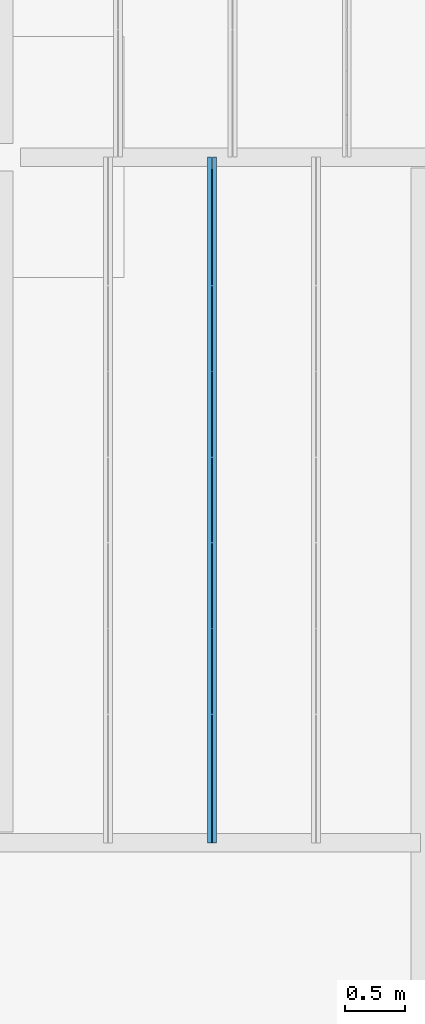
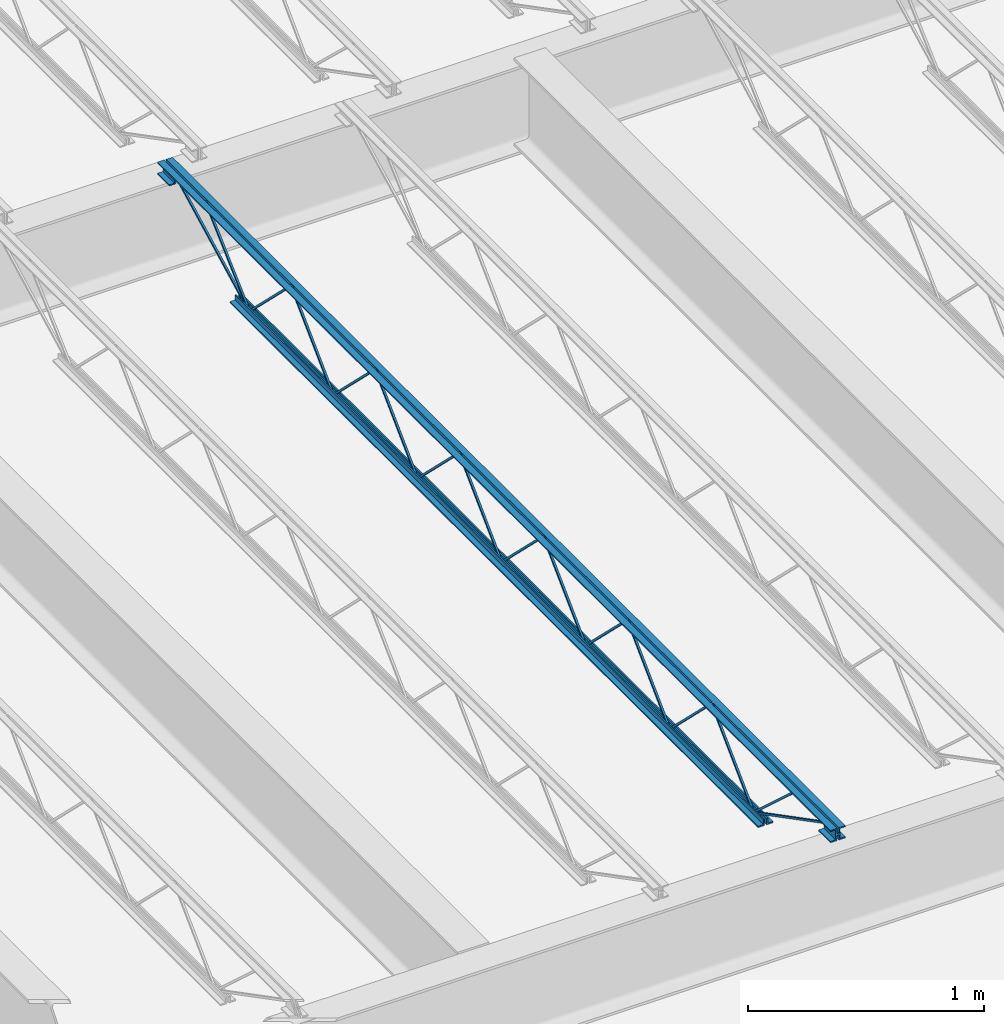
# One storey, part 22 of 75: 1 beam.
"""IFC2X3 building model written with IfcOpenShell, lengths in metres."""

import ifcopenshell
import ifcopenshell.guid

model = None  # the IFC model being written
_history = None  # IfcOwnerHistory: only IFC2X3 demands one
_inside = {}  # id of a spatial element -> (the spatial element, [elements in it])
_under = {}  # id of a project, library or spatial element -> (it, [spatial elements below it])
_declared = {}  # id of a project -> (the project, [libraries it declares])
_typed = {}  # id of a type object -> (the type object, [elements of that type])
_made_of = {}  # id of a material, layer set ... -> (it, [elements and type objects made of it])


def new_model(schema):
    """Start an empty IFC model of exactly this schema.

    Asked for "IFC4X3", IfcOpenShell would pick the latest addendum, in which some entities
    have other attributes; the version numbers below select the first issue.
    IFC2X3 requires an IfcOwnerHistory on every rooted entity: one is made here for all.
    """
    global model, _history
    if schema == "IFC4X3":
        model = ifcopenshell.file(schema_version=(4, 3, 0, 0))
    else:
        model = ifcopenshell.file(schema=schema)
    _inside.clear()
    _under.clear()
    _declared.clear()
    _typed.clear()
    _made_of.clear()
    _history = None
    if model.schema == "IFC2X3":
        org = make("IfcOrganization", Name="unknown")
        user = make(
            "IfcPersonAndOrganization",
            ThePerson=make("IfcPerson", FamilyName="unknown"),
            TheOrganization=org,
        )
        app = make(
            "IfcApplication",
            ApplicationDeveloper=org,
            Version="unknown",
            ApplicationFullName="unknown",
            ApplicationIdentifier="unknown",
        )
        _history = make(
            "IfcOwnerHistory",
            OwningUser=user,
            OwningApplication=app,
            ChangeAction="ADDED",
            CreationDate=0,
        )
    return model


def make(cls, **values):
    """One entity of the class cls with the attributes given. An attribute that is None is left unset."""
    return model.create_entity(
        cls, **{name: value for name, value in values.items() if value is not None}
    )


def entity(cls, *values):
    """Any entity or typed value of the class cls, its attributes in the order of the schema. None: left unset."""
    e = model.create_entity(cls)
    for i, value in enumerate(values):
        if value is not None:
            e[i] = value
    return e


def rooted(cls, **values):
    """An entity with a GlobalId (a new one), such as an element, a storey or a relation."""
    return make(cls, GlobalId=ifcopenshell.guid.new(), OwnerHistory=_history, **values)


def si_unit(unit_type, name, prefix=None):
    """IfcSIUnit, for example si_unit("LENGTHUNIT", "METRE", prefix="MILLI")."""
    return make("IfcSIUnit", UnitType=unit_type, Prefix=prefix, Name=name)


def converted_unit(unit_type, name, factor, base, dimensions=None, offset=None):
    """IfcConversionBasedUnit, such as the inch: factor (a typed value) times the base unit."""
    return make(
        "IfcConversionBasedUnit"
        if offset is None
        else "IfcConversionBasedUnitWithOffset",
        ConversionOffset=offset,
        Dimensions=None
        if dimensions is None
        else entity("IfcDimensionalExponents", *dimensions),
        UnitType=unit_type,
        Name=name,
        ConversionFactor=make(
            "IfcMeasureWithUnit", ValueComponent=factor, UnitComponent=base
        ),
    )


def assignment(units):
    """IfcUnitAssignment: the units of a project."""
    return None if units is None else make("IfcUnitAssignment", Units=units)


def point(xyz):
    """IfcCartesianPoint."""
    return None if xyz is None else make("IfcCartesianPoint", Coordinates=xyz)


def direction(xyz):
    """IfcDirection."""
    return None if xyz is None else make("IfcDirection", DirectionRatios=xyz)


def frame(location, z_axis=None, x_axis=None):
    """IfcAxis2Placement3D, a coordinate frame: its origin and axes. An axis left out is left unset."""
    return make(
        "IfcAxis2Placement3D",
        Location=point(location),
        Axis=direction(z_axis),
        RefDirection=direction(x_axis),
    )


def origin():
    """The frame at (0, 0, 0) with its axes left unset."""
    return frame((0.0, 0.0, 0.0))


def place(relative_to, where):
    """IfcLocalPlacement: puts the frame where relative to a parent placement (None: the world)."""
    return make(
        "IfcLocalPlacement", PlacementRelTo=relative_to, RelativePlacement=where
    )


def context(
    kind, dimensions, precision=None, world=None, true_north=None, identifier=None
):
    """IfcGeometricRepresentationContext, for example the 3D "Model" context."""
    return make(
        "IfcGeometricRepresentationContext",
        ContextIdentifier=identifier,
        ContextType=kind,
        CoordinateSpaceDimension=dimensions,
        Precision=precision,
        WorldCoordinateSystem=world,
        TrueNorth=true_north,
    )


def project(units=None, contexts=None):
    """IfcProject with its units and contexts."""
    return rooted(
        "IfcProject",
        Name="project",
        RepresentationContexts=contexts,
        UnitsInContext=assignment(units),
    )


def spatial(cls, under=None, at=None, **own):
    """A site, building, storey or space (cls), placed at a placement, below another one or the project."""
    s = rooted(cls, ObjectPlacement=at, **own)
    if under is not None:
        _under.setdefault(under.id(), (under, []))[1].append(s)
    return s


def faces_of(points, faces, orient=None, outer=None):
    """IfcFace entities. A face is a list of loops; a loop is a list of indices into points, from 0.

    orient and outer hold one flag for each loop. By default every Orientation is true, the
    first loop of a face is its IfcFaceOuterBound and the others are IfcFaceBound.
    """
    made = []
    for i, loops in enumerate(faces):
        bounds = []
        for j, loop in enumerate(loops):
            is_outer = j == 0 if outer is None else outer[i][j]
            bounds.append(
                make(
                    "IfcFaceOuterBound" if is_outer else "IfcFaceBound",
                    Bound=make("IfcPolyLoop", Polygon=[points[k] for k in loop]),
                    Orientation=True if orient is None else orient[i][j],
                )
            )
        made.append(make("IfcFace", Bounds=bounds))
    return made


def face_set(faces, orient=None, outer=None):
    """The faces of one IfcConnectedFaceSet. surface_model builds it on its shared points."""
    return ("IfcConnectedFaceSet", faces, orient, outer)


def surface_model(cls, points, shells):
    """IfcFaceBasedSurfaceModel or IfcShellBasedSurfaceModel (cls): surfaces that need not close."""
    shared = [point(p) for p in points]
    made = [make(c, CfsFaces=faces_of(shared, fs, o, b)) for c, fs, o, b in shells]
    if cls == "IfcFaceBasedSurfaceModel":
        return make(cls, FbsmFaces=made)
    return make(cls, SbsmBoundary=made)


def shape(context_of_items, identifier, shape_type, items):
    """IfcShapeRepresentation: the items that make up one representation, for example the "Body"."""
    return make(
        "IfcShapeRepresentation",
        ContextOfItems=context_of_items,
        RepresentationIdentifier=identifier,
        RepresentationType=shape_type,
        Items=items,
    )


def made_of(thing, what):
    """Note that an element or type object is made of a material, layer set ...; save() writes the relation."""
    if what is not None:
        _made_of.setdefault(what.id(), (what, []))[1].append(thing)
    return thing


def element(
    cls,
    number,
    at=None,
    inside=None,
    cuts=None,
    type_object=None,
    material=None,
    context=None,
    identifier="Body",
    shape_type=None,
    held_by="IfcProductDefinitionShape",
    body=None,
    shapes=None,
    **own,
):
    """One element of the class cls, such as IfcWall. Its Tag is "e" and its number.

    at: its placement. inside: the storey or other place that contains it. cuts: it is an
    opening in that element (IfcRelVoidsElement). A single representation is given by context,
    identifier, shape_type and body (its items); several are given by shapes. held_by: the class
    of the entity that holds the representations. save() writes the other relations.
    """
    e = rooted(cls, Tag="e%d" % number, ObjectPlacement=at, **own)
    if body is not None:
        shapes = [shape(context, identifier, shape_type, body)]
    if shapes is not None:
        e.Representation = make(held_by, Representations=shapes)
    if inside is not None:
        _inside.setdefault(inside.id(), (inside, []))[1].append(e)
    if cuts is not None:
        rooted(
            "IfcRelVoidsElement", RelatingBuildingElement=cuts, RelatedOpeningElement=e
        )
    if type_object is not None:
        _typed.setdefault(type_object.id(), (type_object, []))[1].append(e)
    return made_of(e, material)


def aggregate(whole, parts):
    """IfcRelAggregates: a whole, such as a stair, and the parts it consists of."""
    return rooted("IfcRelAggregates", RelatingObject=whole, RelatedObjects=parts)


def save(model, path):
    """Write the relations noted so far, then the file.

    IfcRelAggregates (storeys below a building ...), IfcRelContainedInSpatialStructure (elements
    in a storey), IfcRelDefinesByType, IfcRelAssociatesMaterial and IfcRelDeclares: one each for
    every whole, place, type object, material and project.
    """
    for whole, parts in _under.values():
        aggregate(whole, parts)
    for where, things in _inside.values():
        rooted(
            "IfcRelContainedInSpatialStructure",
            RelatedElements=things,
            RelatingStructure=where,
        )
    for kind, things in _typed.values():
        rooted("IfcRelDefinesByType", RelatedObjects=things, RelatingType=kind)
    for what, things in _made_of.values():
        rooted("IfcRelAssociatesMaterial", RelatedObjects=things, RelatingMaterial=what)
    for by, libraries in _declared.values():
        rooted("IfcRelDeclares", RelatingContext=by, RelatedDefinitions=libraries)
    model.write(path)


model = new_model("IFC2X3")

# Units and contexts
model_context = context("Model", 3, precision=1e-09, world=origin())
plan_context = context("Plan", 3, precision=1e-09, world=origin())
ifc_project = project(units=[si_unit("LENGTHUNIT", "METRE"), si_unit("AREAUNIT", "SQUARE_METRE"), si_unit("VOLUMEUNIT", "CUBIC_METRE"), converted_unit("PLANEANGLEUNIT", "DEGREE", entity("IfcRatioMeasure", 0.01745329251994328), si_unit("PLANEANGLEUNIT", "RADIAN"), dimensions=[0, 0, 0, 0, 0, 0, 0]), si_unit("TIMEUNIT", "SECOND")], contexts=[model_context, plan_context])

# Site, building, storey
site_placement = place(None, origin())
site = spatial("IfcSite", under=ifc_project, at=site_placement, Name="Default", CompositionType="ELEMENT")
building_placement = place(site_placement, origin())
building = spatial("IfcBuilding", under=site, at=building_placement, CompositionType="ELEMENT")
storey_placement = place(building_placement, origin())
storey = spatial("IfcBuildingStorey", under=building, at=storey_placement, Name="First Floor", CompositionType="ELEMENT", Elevation=-3.531500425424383e-13)

# Beam
beam_placement = place(storey_placement, frame((-13.18576689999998, 12.91254609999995, 4.112000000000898)))
element("IfcBeam", 1, at=beam_placement, inside=storey, Name="M_K-Series Bar Joist-Rod Web:14K1:14K1", ObjectType="M_K-Series Bar Joist-Rod Web:14K1", context=model_context, shape_type="SurfaceModel", body=[
    surface_model("IfcFaceBasedSurfaceModel", [(0.04149999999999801, 3.560666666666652, 0.01110000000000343), (0.03200000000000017, 3.560666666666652, 0.01110000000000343), (0.03200000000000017, 3.560666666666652, 0.001600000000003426), (0.04149999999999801, 3.560666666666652, 0.001600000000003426), (0.031999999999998, 3.561899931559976, 0.01110000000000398), (0.041499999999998, 3.561899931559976, 0.01110000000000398), (0.03200000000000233, 3.565783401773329, 0.001600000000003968), (0.0320000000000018, 3.915516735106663, 0.3449000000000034), (0.03200000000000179, 3.91798326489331, 0.3449000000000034), (0.03200000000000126, 4.267716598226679, 0.001600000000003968), (0.03200000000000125, 4.27283333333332, 0.001600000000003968), (0.03199999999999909, 4.27283333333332, 0.01110000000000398), (0.03199999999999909, 4.271600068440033, 0.01110000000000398), (0.03199999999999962, 3.921866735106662, 0.3544000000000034), (0.03199999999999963, 3.91163326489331, 0.3544000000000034), (0.04150000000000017, 3.565783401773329, 0.001600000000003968), (0.04149999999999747, 3.915516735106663, 0.3449000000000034), (0.04149999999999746, 3.917983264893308, 0.3449000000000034), (0.04149999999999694, 4.267716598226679, 0.001600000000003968), (0.04149999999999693, 4.27283333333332, 0.001600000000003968), (0.04149999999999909, 4.27283333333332, 0.01110000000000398), (0.04149999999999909, 4.271600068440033, 0.01110000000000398), (0.04149999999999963, 3.921866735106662, 0.3544000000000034), (0.04149999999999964, 3.91163326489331, 0.3544000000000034), (0.04149999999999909, 2.848499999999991, 0.01110000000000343), (0.03200000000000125, 2.848499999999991, 0.01110000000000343), (0.03200000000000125, 2.848499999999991, 0.001600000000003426), (0.04149999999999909, 2.848499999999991, 0.001600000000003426), (0.03199999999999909, 2.849733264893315, 0.01110000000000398), (0.04149999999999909, 2.849733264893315, 0.01110000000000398), (0.03200000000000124, 2.853616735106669, 0.001600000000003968), (0.03200000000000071, 3.20335006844, 0.3449000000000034), (0.03200000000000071, 3.205816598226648, 0.3449000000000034), (0.03200000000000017, 3.555549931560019, 0.001600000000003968), (0.03200000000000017, 3.560666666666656, 0.001600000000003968), (0.03200000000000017, 3.560666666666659, 0.01110000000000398), (0.03200000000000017, 3.559433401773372, 0.01110000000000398), (0.0320000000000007, 3.209700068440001, 0.3544000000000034), (0.03200000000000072, 3.199466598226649, 0.3544000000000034), (0.04150000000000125, 2.853616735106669, 0.001600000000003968), (0.04149999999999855, 3.203350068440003, 0.3449000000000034), (0.04149999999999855, 3.205816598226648, 0.3449000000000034), (0.04149999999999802, 3.555549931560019, 0.001600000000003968), (0.04149999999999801, 3.560666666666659, 0.001600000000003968), (0.04149999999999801, 3.560666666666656, 0.01110000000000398), (0.04149999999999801, 3.559433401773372, 0.01110000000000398), (0.04149999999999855, 3.209700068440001, 0.3544000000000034), (0.04149999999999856, 3.199466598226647, 0.3544000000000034), (0.04150000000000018, 2.136333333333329, 0.01110000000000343), (0.03200000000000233, 2.136333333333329, 0.01110000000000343), (0.03200000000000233, 2.136333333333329, 0.001600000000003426), (0.04150000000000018, 2.136333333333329, 0.001600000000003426), (0.03200000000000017, 2.137566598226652, 0.01110000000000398), (0.04150000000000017, 2.137566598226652, 0.01110000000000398), (0.03200000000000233, 2.141450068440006, 0.001600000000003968), (0.0320000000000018, 2.491183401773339, 0.3449000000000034), (0.03200000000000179, 2.493649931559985, 0.3449000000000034), (0.03200000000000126, 2.843383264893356, 0.001600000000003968), (0.03200000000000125, 2.848499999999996, 0.001600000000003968), (0.03200000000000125, 2.848499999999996, 0.01110000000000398), (0.03200000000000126, 2.847266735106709, 0.01110000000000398), (0.03200000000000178, 2.497533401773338, 0.3544000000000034), (0.0320000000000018, 2.487299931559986, 0.3544000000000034), (0.04150000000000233, 2.141450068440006, 0.001600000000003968), (0.04149999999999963, 2.491183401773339, 0.3449000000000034), (0.04149999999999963, 2.493649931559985, 0.3449000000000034), (0.0414999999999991, 2.843383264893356, 0.001600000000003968), (0.04149999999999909, 2.848499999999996, 0.001600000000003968), (0.04149999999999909, 2.848499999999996, 0.01110000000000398), (0.04149999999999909, 2.847266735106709, 0.01110000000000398), (0.04149999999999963, 2.497533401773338, 0.3544000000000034), (0.04149999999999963, 2.487299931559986, 0.3544000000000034), (0.04149999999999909, 1.424166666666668, 0.01110000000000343), (0.03200000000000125, 1.424166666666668, 0.01110000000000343), (0.03200000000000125, 1.424166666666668, 0.001600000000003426), (0.04149999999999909, 1.424166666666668, 0.001600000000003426), (0.03199999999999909, 1.425399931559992, 0.01110000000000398), (0.04149999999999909, 1.425399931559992, 0.01110000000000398), (0.03200000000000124, 1.429283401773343, 0.001600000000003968), (0.03200000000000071, 1.779016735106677, 0.3449000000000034), (0.03200000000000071, 1.781483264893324, 0.3449000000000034), (0.03200000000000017, 2.131216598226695, 0.001600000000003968), (0.03200000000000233, 2.136333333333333, 0.001600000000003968), (0.03200000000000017, 2.136333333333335, 0.01110000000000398), (0.03200000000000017, 2.135100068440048, 0.01110000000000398), (0.0320000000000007, 1.785366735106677, 0.3544000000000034), (0.03200000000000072, 1.775133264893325, 0.3544000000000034), (0.04150000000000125, 1.429283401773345, 0.001600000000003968), (0.04149999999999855, 1.779016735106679, 0.3449000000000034), (0.04149999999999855, 1.781483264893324, 0.3449000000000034), (0.04149999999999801, 2.131216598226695, 0.001600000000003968), (0.04149999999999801, 2.136333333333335, 0.001600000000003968), (0.04150000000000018, 2.136333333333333, 0.01110000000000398), (0.04149999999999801, 2.135100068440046, 0.01110000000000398), (0.04149999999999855, 1.785366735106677, 0.3544000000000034), (0.04149999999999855, 1.775133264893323, 0.3544000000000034), (0.04149999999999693, 4.272833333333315, 0.01109999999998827), (0.03199999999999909, 4.272833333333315, 0.01109999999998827), (0.03199999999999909, 4.272833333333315, 0.001599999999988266), (0.04149999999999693, 4.272833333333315, 0.001599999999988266), (0.03199999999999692, 4.274066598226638, 0.01109999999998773), (0.04149999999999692, 4.274066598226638, 0.01109999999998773), (0.03199999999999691, 4.277950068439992, 0.001599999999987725), (0.03199999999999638, 4.627683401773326, 0.3448999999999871), (0.03199999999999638, 4.630149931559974, 0.3448999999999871), (0.03199999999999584, 4.979883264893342, 0.001599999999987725), (0.031999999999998, 4.984999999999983, 0.001599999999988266), (0.03199999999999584, 4.984999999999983, 0.01109999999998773), (0.03199999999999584, 4.983766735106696, 0.01109999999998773), (0.03199999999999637, 4.634033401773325, 0.3543999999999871), (0.03199999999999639, 4.623799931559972, 0.3543999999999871), (0.04149999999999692, 4.277950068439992, 0.001599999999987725), (0.04149999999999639, 4.627683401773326, 0.3448999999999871), (0.04149999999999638, 4.630149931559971, 0.3448999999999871), (0.04149999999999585, 4.979883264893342, 0.001599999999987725), (0.04149999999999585, 4.984999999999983, 0.001599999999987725), (0.04149999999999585, 4.984999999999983, 0.01109999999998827), (0.04149999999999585, 4.983766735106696, 0.01109999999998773), (0.04149999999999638, 4.634033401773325, 0.3543999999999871), (0.04149999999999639, 4.623799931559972, 0.3543999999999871), (0.04150000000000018, 0.712000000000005, 0.01110000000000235), (0.03200000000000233, 0.712000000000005, 0.01110000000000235), (0.03200000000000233, 0.712000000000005, 0.001600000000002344), (0.04150000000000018, 0.712000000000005, 0.001600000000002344), (0.03200000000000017, 0.7132332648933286, 0.01110000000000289), (0.04150000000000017, 0.7132332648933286, 0.01110000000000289), (0.03200000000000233, 0.717116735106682, 0.001600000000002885), (0.0320000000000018, 1.066850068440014, 0.3449000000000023), (0.03200000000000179, 1.069316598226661, 0.3449000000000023), (0.03200000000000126, 1.419049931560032, 0.001600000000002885), (0.03200000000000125, 1.42416666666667, 0.001600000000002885), (0.03200000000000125, 1.424166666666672, 0.01110000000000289), (0.03200000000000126, 1.422933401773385, 0.01110000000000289), (0.03200000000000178, 1.073200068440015, 0.3544000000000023), (0.0320000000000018, 1.062966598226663, 0.3544000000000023), (0.04150000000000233, 0.717116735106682, 0.001600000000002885), (0.04149999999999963, 1.066850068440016, 0.3449000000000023), (0.04149999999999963, 1.069316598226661, 0.3449000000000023), (0.04149999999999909, 1.419049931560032, 0.001600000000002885), (0.04149999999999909, 1.424166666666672, 0.001600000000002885), (0.04149999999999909, 1.42416666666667, 0.01110000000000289), (0.04149999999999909, 1.422933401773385, 0.01110000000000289), (0.04149999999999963, 1.073200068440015, 0.3544000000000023), (0.04149999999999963, 1.062966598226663, 0.3544000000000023), (0.03199999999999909, 5.697, 0.3559999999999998), (0.0, 5.697, 0.3559999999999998), (0.0, 5.697, 0.349499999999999), (0.0254999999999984, 5.697, 0.349499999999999), (0.0254999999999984, 5.697, 0.3239999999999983), (0.03199999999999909, 5.697, 0.3239999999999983), (0.04149999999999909, 5.697, 0.3559999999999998), (0.04149999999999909, 5.697, 0.3239999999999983), (0.04799999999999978, 5.697, 0.3239999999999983), (0.04799999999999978, 5.697, 0.349499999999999), (0.07349999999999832, 5.697, 0.349499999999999), (0.07349999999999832, 5.697, 0.3559999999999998), (0.03199999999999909, 0.0, 0.3559999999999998), (0.0, 0.0, 0.3559999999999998), (0.0, 0.0, 0.349499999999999), (0.0254999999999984, 0.0, 0.349499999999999), (0.0254999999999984, 0.0, 0.3239999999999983), (0.03199999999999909, 0.0, 0.3239999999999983), (0.04149999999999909, 0.0, 0.3559999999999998), (0.04149999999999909, 0.0, 0.3239999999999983), (0.04799999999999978, 0.0, 0.3239999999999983), (0.04799999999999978, 0.0, 0.349499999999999), (0.07349999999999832, 0.0, 0.349499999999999), (0.07349999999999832, 0.0, 0.3559999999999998), (0.04149999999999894, 0.09999999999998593, 0.2924999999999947), (0.07349999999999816, 0.09999999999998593, 0.2924999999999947), (0.07349999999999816, 0.09999999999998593, 0.2989999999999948), (0.04799999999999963, 0.09999999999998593, 0.2989999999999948), (0.04799999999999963, 0.09999999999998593, 0.3239999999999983), (0.04149999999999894, 0.09999999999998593, 0.3239999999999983), (0.0, 0.09999999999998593, 0.2924999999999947), (0.03199999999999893, 0.09999999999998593, 0.2924999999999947), (0.03199999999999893, 0.09999999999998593, 0.3239999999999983), (0.02549999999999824, 0.09999999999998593, 0.3239999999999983), (0.02549999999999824, 0.09999999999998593, 0.2989999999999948), (0.0, 0.09999999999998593, 0.2989999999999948), (0.04149999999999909, 0.0, 0.2924999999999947), (0.07349999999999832, 0.0, 0.2924999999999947), (0.07349999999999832, 0.0, 0.2989999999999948), (0.04799999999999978, 0.0, 0.2989999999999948), (0.0, 0.0, 0.2924999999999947), (0.03199999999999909, 0.0, 0.2924999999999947), (0.0254999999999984, 0.0, 0.2989999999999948), (0.0, 0.0, 0.2989999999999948), (0.03199999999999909, 5.697, 0.2924999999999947), (0.02550000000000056, 5.697, 0.3239999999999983), (0.02550000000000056, 5.697, 0.2989999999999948), (0.0, 5.697, 0.2989999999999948), (0.0, 5.697, 0.2924999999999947), (0.04149999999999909, 5.697, 0.2924999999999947), (0.07350000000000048, 5.697, 0.2924999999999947), (0.07350000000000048, 5.697, 0.2989999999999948), (0.04799999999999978, 5.697, 0.2989999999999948), (0.03199999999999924, 5.597000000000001, 0.2924999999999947), (0.03199999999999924, 5.597000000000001, 0.3239999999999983), (0.02550000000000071, 5.597000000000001, 0.3239999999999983), (0.02550000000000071, 5.597000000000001, 0.2989999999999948), (0.0, 5.597000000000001, 0.2989999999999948), (0.0, 5.597000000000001, 0.2924999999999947), (0.04149999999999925, 5.597000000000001, 0.2924999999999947), (0.07350000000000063, 5.597000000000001, 0.2924999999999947), (0.07350000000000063, 5.597000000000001, 0.2989999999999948), (0.04799999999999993, 5.597000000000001, 0.2989999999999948), (0.04799999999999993, 5.597000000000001, 0.3239999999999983), (0.04149999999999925, 5.597000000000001, 0.3239999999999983), (0.03200000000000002, 5.085000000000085, 0.0), (0.03200000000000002, 5.085000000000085, 0.03199999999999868), (0.02549999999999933, 5.085000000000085, 0.03199999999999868), (0.02549999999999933, 5.085000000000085, 0.006499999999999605), (0.0, 5.085000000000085, 0.006499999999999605), (0.0, 5.085000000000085, 0.0), (0.04150000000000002, 5.085000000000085, 0.0), (0.07349999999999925, 5.085000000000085, 0.0), (0.07349999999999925, 5.085000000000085, 0.006499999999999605), (0.04800000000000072, 5.085000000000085, 0.006499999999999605), (0.04800000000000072, 5.085000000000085, 0.03199999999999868), (0.04150000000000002, 5.085000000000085, 0.03199999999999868), (0.03199999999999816, 0.6120000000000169, 0.0), (0.03199999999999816, 0.6120000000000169, 0.03199999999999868), (0.02549999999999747, 0.6120000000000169, 0.03199999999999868), (0.02549999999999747, 0.6120000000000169, 0.006499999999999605), (0.0, 0.6120000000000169, 0.006499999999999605), (0.0, 0.6120000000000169, 0.0), (0.04149999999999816, 0.6120000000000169, 0.0), (0.07349999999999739, 0.6120000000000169, 0.0), (0.07349999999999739, 0.6120000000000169, 0.006499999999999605), (0.04799999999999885, 0.6120000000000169, 0.006499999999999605), (0.04799999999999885, 0.6120000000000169, 0.03199999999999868), (0.04149999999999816, 0.6120000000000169, 0.03199999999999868), (0.04150000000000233, 0.7141882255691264, 0.01056594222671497), (0.03200000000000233, 0.7141882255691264, 0.01056594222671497), (0.03200000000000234, 0.7098117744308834, 0.002134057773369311), (0.04150000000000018, 0.7098117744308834, 0.002134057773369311), (0.04150000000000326, 0.1011592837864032, 0.3287499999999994), (0.04150000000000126, 0.0, 0.3287499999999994), (0.04150000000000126, 0.0, 0.3192499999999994), (0.04150000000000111, 0.09884071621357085, 0.3192499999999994), (0.0320000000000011, 0.09884071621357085, 0.3192499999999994), (0.0320000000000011, 0.1011592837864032, 0.3287499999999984), (0.03200000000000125, 0.0, 0.3287499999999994), (0.03200000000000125, 0.0, 0.3192499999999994), (0.04149999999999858, 0.3359595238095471, 0.341700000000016), (0.03200000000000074, 0.3359595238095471, 0.341700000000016), (0.03200000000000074, 0.3359595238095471, 0.332200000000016), (0.04149999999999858, 0.3359595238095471, 0.332200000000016), (0.03199999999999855, 0.3504971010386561, 0.341700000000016), (0.04149999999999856, 0.3504971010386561, 0.341700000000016), (0.03200000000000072, 0.3468219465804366, 0.3322000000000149), (0.03200000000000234, 0.708803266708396, 0.002836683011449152), (0.03200000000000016, 0.715196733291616, 0.009863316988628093), (0.04150000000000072, 0.3468219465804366, 0.332200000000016), (0.04149999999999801, 0.708803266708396, 0.002836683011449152), (0.04150000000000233, 0.715196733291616, 0.009863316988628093), (0.04149999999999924, 5.599188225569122, 0.3197840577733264), (0.04149999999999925, 5.594811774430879, 0.3282159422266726), (0.0320000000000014, 5.594811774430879, 0.3282159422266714), (0.0320000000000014, 5.599188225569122, 0.3197840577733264), (0.04150000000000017, 4.98718822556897, 0.002134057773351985), (0.04149999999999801, 4.982811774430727, 0.01056594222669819), (0.031999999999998, 4.982811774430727, 0.01056594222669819), (0.03200000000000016, 4.98718822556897, 0.002134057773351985), (0.0414999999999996, 5.358825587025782, 0.3461653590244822), (0.04149999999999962, 5.352369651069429, 0.3531346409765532), (0.03199999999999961, 5.352369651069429, 0.3531346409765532), (0.03200000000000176, 5.358825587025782, 0.3461653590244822), (0.041499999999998, 4.988227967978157, 0.002865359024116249), (0.04149999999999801, 4.981772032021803, 0.009834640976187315), (0.031999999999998, 4.981772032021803, 0.009834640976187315), (0.03200000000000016, 4.988227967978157, 0.002865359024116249)], [face_set([[[0, 1, 2, 3]], [[1, 4, 5, 0]], [[2, 6, 7, 8, 9, 10, 11, 12, 13, 14, 4, 1]], [[3, 2, 6, 15]], [[0, 3, 15, 16, 17, 18, 19, 20, 21, 22, 23, 5]], [[4, 5, 23, 14]], [[15, 16, 7, 6]], [[14, 13, 22, 23]], [[16, 7, 8, 17]], [[13, 12, 21, 22]], [[17, 8, 9, 18]], [[20, 11, 10, 19]], [[12, 11, 20, 21]], [[18, 9, 10, 19]]]), face_set([[[24, 25, 26, 27]], [[25, 28, 29, 24]], [[26, 30, 31, 32, 33, 34, 35, 36, 37, 38, 28, 25]], [[27, 26, 30, 39]], [[24, 27, 39, 40, 41, 42, 43, 44, 45, 46, 47, 29]], [[28, 29, 47, 38]], [[39, 40, 31, 30]], [[38, 37, 46, 47]], [[40, 31, 32, 41]], [[37, 36, 45, 46]], [[41, 32, 33, 42]], [[44, 35, 34, 43]], [[36, 35, 44, 45]], [[42, 33, 34, 43]]]), face_set([[[48, 49, 50, 51]], [[49, 52, 53, 48]], [[50, 54, 55, 56, 57, 58, 59, 60, 61, 62, 52, 49]], [[51, 50, 54, 63]], [[48, 51, 63, 64, 65, 66, 67, 68, 69, 70, 71, 53]], [[52, 53, 71, 62]], [[63, 64, 55, 54]], [[62, 61, 70, 71]], [[64, 55, 56, 65]], [[61, 60, 69, 70]], [[65, 56, 57, 66]], [[68, 59, 58, 67]], [[60, 59, 68, 69]], [[66, 57, 58, 67]]]), face_set([[[72, 73, 74, 75]], [[73, 76, 77, 72]], [[74, 78, 79, 80, 81, 82, 83, 84, 85, 86, 76, 73]], [[75, 74, 78, 87]], [[72, 75, 87, 88, 89, 90, 91, 92, 93, 94, 95, 77]], [[76, 77, 95, 86]], [[87, 88, 79, 78]], [[86, 85, 94, 95]], [[88, 79, 80, 89]], [[85, 84, 93, 94]], [[89, 80, 81, 90]], [[92, 83, 82, 91]], [[84, 83, 92, 93]], [[90, 81, 82, 91]]]), face_set([[[96, 97, 98, 99]], [[97, 100, 101, 96]], [[98, 102, 103, 104, 105, 106, 107, 108, 109, 110, 100, 97]], [[99, 98, 102, 111]], [[96, 99, 111, 112, 113, 114, 115, 116, 117, 118, 119, 101]], [[100, 101, 119, 110]], [[111, 112, 103, 102]], [[110, 109, 118, 119]], [[112, 103, 104, 113]], [[109, 108, 117, 118]], [[113, 104, 105, 114]], [[116, 107, 106, 115]], [[108, 107, 116, 117]], [[114, 105, 106, 115]]]), face_set([[[120, 121, 122, 123]], [[121, 124, 125, 120]], [[122, 126, 127, 128, 129, 130, 131, 132, 133, 134, 124, 121]], [[123, 122, 126, 135]], [[120, 123, 135, 136, 137, 138, 139, 140, 141, 142, 143, 125]], [[124, 125, 143, 134]], [[135, 136, 127, 126]], [[134, 133, 142, 143]], [[136, 127, 128, 137]], [[133, 132, 141, 142]], [[137, 128, 129, 138]], [[140, 131, 130, 139]], [[132, 131, 140, 141]], [[138, 129, 130, 139]]]), face_set([[[144, 145, 146, 147, 148, 149]], [[150, 151, 152, 153, 154, 155]], [[156, 157, 158, 159, 160, 161]], [[162, 163, 164, 165, 166, 167]], [[149, 144, 156, 161]], [[148, 149, 161, 160]], [[147, 159, 160, 148]], [[146, 147, 159, 158]], [[145, 157, 158, 146]], [[144, 156, 157, 145]], [[155, 167, 162, 150]], [[154, 155, 167, 166]], [[153, 154, 166, 165]], [[152, 153, 165, 164]], [[151, 152, 164, 163]], [[150, 162, 163, 151]]]), face_set([[[168, 169, 170, 171, 172, 173]], [[174, 175, 176, 177, 178, 179]], [[180, 181, 182, 183, 164, 163]], [[184, 185, 161, 160, 186, 187]], [[173, 163, 180, 168]], [[172, 164, 163, 173]], [[171, 172, 164, 183]], [[170, 182, 183, 171]], [[169, 170, 182, 181]], [[168, 169, 181, 180]], [[179, 187, 184, 174]], [[178, 186, 187, 179]], [[177, 160, 186, 178]], [[176, 161, 160, 177]], [[175, 176, 161, 185]], [[174, 175, 185, 184]]]), face_set([[[188, 149, 189, 190, 191, 192]], [[193, 194, 195, 196, 152, 151]], [[197, 198, 199, 200, 201, 202]], [[203, 204, 205, 206, 207, 208]], [[192, 188, 197, 202]], [[191, 201, 202, 192]], [[190, 200, 201, 191]], [[189, 199, 200, 190]], [[149, 198, 199, 189]], [[188, 149, 198, 197]], [[151, 208, 203, 193]], [[152, 207, 208, 151]], [[196, 152, 207, 206]], [[195, 205, 206, 196]], [[194, 195, 205, 204]], [[193, 194, 204, 203]]]), face_set([[[209, 210, 211, 212, 213, 214]], [[215, 216, 217, 218, 219, 220]], [[221, 222, 223, 224, 225, 226]], [[227, 228, 229, 230, 231, 232]], [[214, 209, 221, 226]], [[213, 225, 226, 214]], [[212, 224, 225, 213]], [[211, 223, 224, 212]], [[210, 222, 223, 211]], [[209, 210, 222, 221]], [[220, 232, 227, 215]], [[219, 231, 232, 220]], [[218, 219, 231, 230]], [[217, 229, 230, 218]], [[216, 217, 229, 228]], [[215, 216, 228, 227]]]), face_set([[[233, 234, 235, 236]], [[236, 233, 237, 238, 239, 240]], [[235, 236, 240, 241]], [[234, 242, 243, 244, 241, 235]], [[233, 237, 242, 234]], [[238, 243, 244, 239]], [[241, 240, 239, 244]], [[237, 238, 243, 242]]]), face_set([[[245, 246, 247, 248]], [[246, 249, 250, 245]], [[247, 251, 252, 253, 249, 246]], [[248, 247, 251, 254]], [[245, 248, 254, 255, 256, 250]], [[256, 253, 252, 255]], [[249, 253, 256, 250]], [[254, 251, 252, 255]]]), face_set([[[257, 258, 259, 260]], [[261, 262, 263, 264]], [[260, 264, 261, 257]], [[259, 263, 264, 260]], [[258, 259, 263, 262]], [[257, 258, 262, 261]]]), face_set([[[265, 266, 267, 268]], [[269, 270, 271, 272]], [[268, 272, 269, 265]], [[267, 271, 272, 268]], [[266, 267, 271, 270]], [[265, 266, 270, 269]]])]),
])

save(model, "model.ifc")
